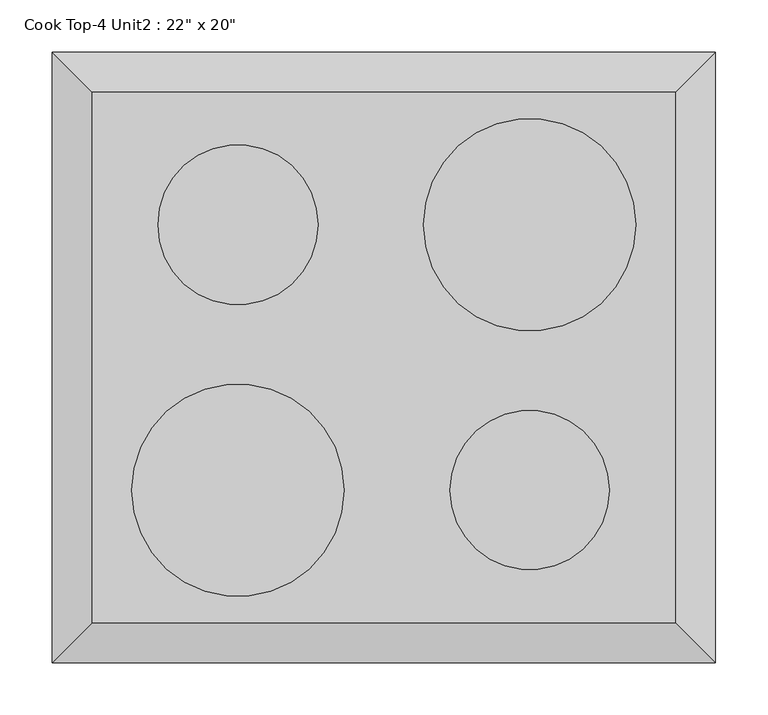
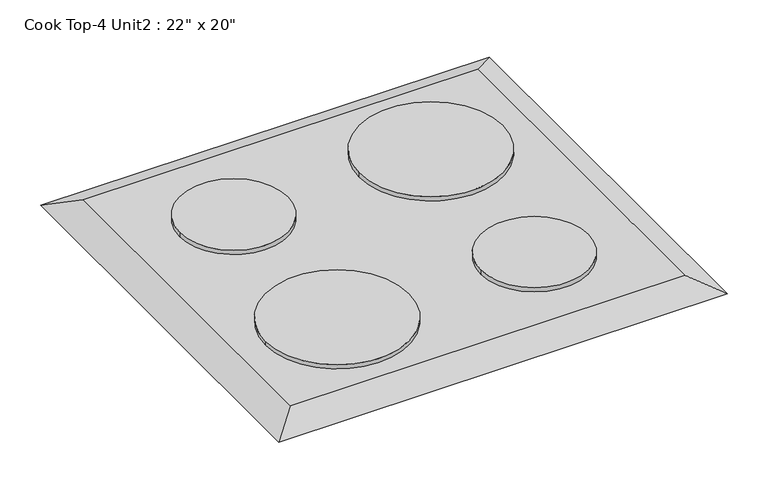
"""IFC4 building model written with IfcOpenShell, lengths in millimetres: proxy geometry."""

from ifc_helpers import new_model, si_unit, point, frame, frame_2d, origin, place, context, project, spatial, circle_curve, trimmed, segment, composite_curve, outline, extrude, faceted_brep, source, transform, mapped, element, save


def proxy_a6faaae8(model_context):
    return source(origin(), model_context, "Body", "SolidModel", [
        extrude(outline(composite_curve([segment(trimmed(circle_curve(frame_2d((-139.7, 127.0)), 76.5869489), [point((-63.1130511, 127.0))], [point((-216.2869489, 127.0))], False, "CARTESIAN"), True, "CONTINUOUS"), segment(trimmed(circle_curve(frame_2d((-139.7, 127.0)), 76.5869489), [point((-216.2869489, 127.0))], [point((-63.1130511, 127.0))], False, "CARTESIAN"), True, "CONTINUOUS")], self_intersect=False)), frame((0.0, 0.0, 918.0), z_axis=(0.0, 0.0, 1.0), x_axis=(1.0, 0.0, 0.0)), (0.0, 0.0, 1.0), 6.35),
        extrude(outline(composite_curve([segment(trimmed(circle_curve(frame_2d((139.7, -127.0)), 76.2), [point((215.9, -127.0))], [point((63.5, -127.0))], False, "CARTESIAN"), True, "CONTINUOUS"), segment(trimmed(circle_curve(frame_2d((139.7, -127.0)), 76.2), [point((63.5, -127.0))], [point((215.9, -127.0))], False, "CARTESIAN"), True, "CONTINUOUS")], self_intersect=False)), frame((0.0, 0.0, 918.0), z_axis=(0.0, 0.0, 1.0), x_axis=(1.0, 0.0, 0.0)), (0.0, 0.0, 1.0), 6.35),
        extrude(outline(composite_curve([segment(trimmed(circle_curve(frame_2d((139.7, 127.0)), 101.6), [point((38.1, 127.0))], [point((241.3, 127.0))], False, "CARTESIAN"), True, "CONTINUOUS"), segment(trimmed(circle_curve(frame_2d((139.7, 127.0)), 101.6), [point((241.3, 127.0))], [point((38.1, 127.0))], False, "CARTESIAN"), True, "CONTINUOUS")], self_intersect=False)), frame((0.0, 0.0, 918.0), z_axis=(0.0, 0.0, 1.0), x_axis=(1.0, 0.0, 0.0)), (0.0, 0.0, 1.0), 6.35),
        faceted_brep([(279.4, 254.0, 918.0), (-279.4, 254.0, 918.0), (-279.4, -254.0, 918.0), (279.4, -254.0, 918.0), (317.5, 292.1, 900.0), (317.5, -292.1, 900.0), (-317.5, -292.1, 900.0), (-317.5, 292.1, 900.0)], [[[0, 1, 2, 3]], [[4, 5, 6, 7]], [[4, 7, 1, 0]], [[7, 6, 2, 1]], [[6, 5, 3, 2]], [[5, 4, 0, 3]]]),
        extrude(outline(composite_curve([segment(trimmed(circle_curve(frame_2d((-139.7, -127.0)), 101.6), [point((-38.1, -127.0))], [point((-241.3, -127.0))], False, "CARTESIAN"), True, "CONTINUOUS"), segment(trimmed(circle_curve(frame_2d((-139.7, -127.0)), 101.6), [point((-241.3, -127.0))], [point((-38.1, -127.0))], False, "CARTESIAN"), True, "CONTINUOUS")], self_intersect=False)), frame((0.0, 0.0, 918.0), z_axis=(0.0, 0.0, 1.0), x_axis=(1.0, 0.0, 0.0)), (0.0, 0.0, 1.0), 6.35),
    ])


if __name__ == "__main__":
    model = new_model("IFC4")
    model_context = context("Model", 3, world=origin())
    ifc_project = project(units=[si_unit("LENGTHUNIT", "METRE", prefix="MILLI")], contexts=[model_context])
    site = spatial("IfcSite", under=ifc_project)
    building = spatial("IfcBuilding", under=site)
    placement = place(None, origin())
    proxy_shape = proxy_a6faaae8(model_context)
    element("IfcBuildingElementProxy", 1, Name="Cook Top-4 Unit2 : 22\" x 20\"", ObjectType="Cook Top-4 Unit2 : 22\" x 20\"", at=placement, inside=building, context=model_context, shape_type="MappedRepresentation", body=[
        mapped(proxy_shape, transform((0.0, 0.0, 0.0), x_axis=(1.0, 0.0, 0.0), y_axis=(0.0, 1.0, 0.0), z_axis=(0.0, 0.0, 1.0))),
    ])
    save(model, "model.ifc")
